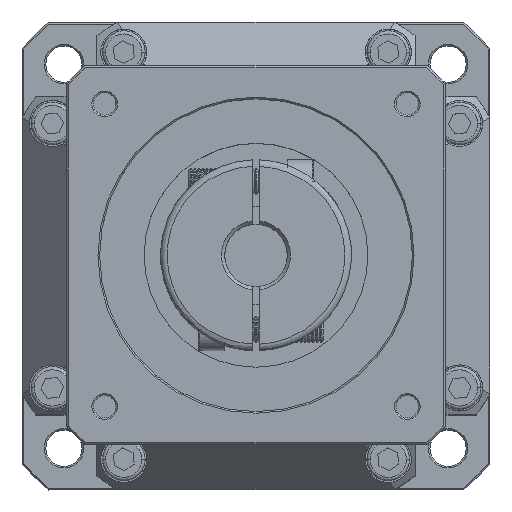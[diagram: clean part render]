
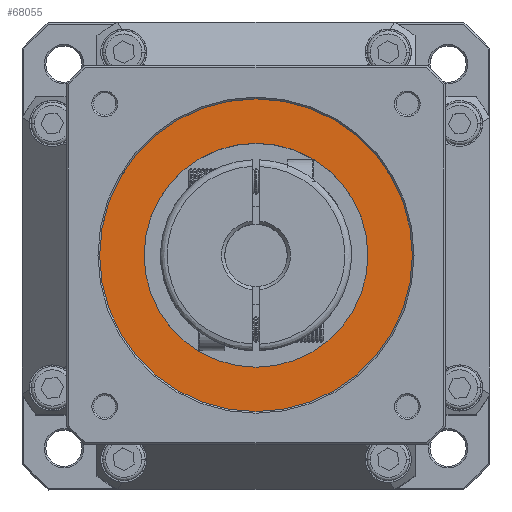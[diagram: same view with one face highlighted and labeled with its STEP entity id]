
A CAD part, top view. The second image highlights one B-rep face of the part: STEP entity #68055.
In plain terms, the highlighted planar face has unit normal (0, 0, -1).
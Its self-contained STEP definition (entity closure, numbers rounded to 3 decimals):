
#110 = VERTEX_POINT ( 'NONE', #34617 ) ;
#2106 = CARTESIAN_POINT ( 'NONE',  ( -47.5, 0., 173. ) ) ;
#4961 = DIRECTION ( 'NONE',  ( 0., 0., 1. ) ) ;
#6616 = ORIENTED_EDGE ( 'NONE', *, *, #79056, .T. ) ;
#8003 = EDGE_CURVE ( 'NONE', #29252, #22478, #40082, .T. ) ;
#10644 = EDGE_CURVE ( 'NONE', #110, #84976, #45941, .T. ) ;
#13610 = FACE_OUTER_BOUND ( 'NONE', #73507, .T. ) ;
#14797 = DIRECTION ( 'NONE',  ( 0., 0., -1. ) ) ;
#14983 = CARTESIAN_POINT ( 'NONE',  ( 0., 0., 173. ) ) ;
#22478 = VERTEX_POINT ( 'NONE', #95795 ) ;
#23007 = DIRECTION ( 'NONE',  ( -1., 0., 0. ) ) ;
#26770 = ORIENTED_EDGE ( 'NONE', *, *, #8003, .T. ) ;
#27464 = DIRECTION ( 'NONE',  ( 0., 0., 1. ) ) ;
#29252 = VERTEX_POINT ( 'NONE', #39047 ) ;
#29259 = ORIENTED_EDGE ( 'NONE', *, *, #81651, .T. ) ;
#33095 = CARTESIAN_POINT ( 'NONE',  ( 0., 0., 173. ) ) ;
#34107 = EDGE_LOOP ( 'NONE', ( #26770, #6616 ) ) ;
#34617 = CARTESIAN_POINT ( 'NONE',  ( 47.5, 0., 173. ) ) ;
#39047 = CARTESIAN_POINT ( 'NONE',  ( -34., 0., 173. ) ) ;
#40082 = CIRCLE ( 'NONE', #51315, 34. ) ;
#41067 = DIRECTION ( 'NONE',  ( 1., 0., 0. ) ) ;
#45941 = CIRCLE ( 'NONE', #94282, 47.5 ) ;
#46505 = CIRCLE ( 'NONE', #77481, 34. ) ;
#51315 = AXIS2_PLACEMENT_3D ( 'NONE', #75303, #27464, #83312 ) ;
#52831 = CARTESIAN_POINT ( 'NONE',  ( -48.07, -48.07, 173. ) ) ;
#56073 = FACE_BOUND ( 'NONE', #34107, .T. ) ;
#60824 = DIRECTION ( 'NONE',  ( 1., 0., 0. ) ) ;
#62557 = CARTESIAN_POINT ( 'NONE',  ( 0., 0., 173. ) ) ;
#66931 = AXIS2_PLACEMENT_3D ( 'NONE', #33095, #88918, #41067 ) ;
#68055 = ADVANCED_FACE ( 'NONE', ( #56073, #13610 ), #100292, .F. ) ;
#70636 = DIRECTION ( 'NONE',  ( 1., 0., 0. ) ) ;
#70821 = DIRECTION ( 'NONE',  ( 0., 0., 1. ) ) ;
#72124 = AXIS2_PLACEMENT_3D ( 'NONE', #52831, #4961, #60824 ) ;
#73507 = EDGE_LOOP ( 'NONE', ( #78672, #29259 ) ) ;
#75303 = CARTESIAN_POINT ( 'NONE',  ( 0., 0., 173. ) ) ;
#77481 = AXIS2_PLACEMENT_3D ( 'NONE', #14983, #70821, #23007 ) ;
#78672 = ORIENTED_EDGE ( 'NONE', *, *, #10644, .T. ) ;
#79056 = EDGE_CURVE ( 'NONE', #22478, #29252, #46505, .T. ) ;
#79679 = CIRCLE ( 'NONE', #66931, 47.5 ) ;
#81651 = EDGE_CURVE ( 'NONE', #84976, #110, #79679, .T. ) ;
#83312 = DIRECTION ( 'NONE',  ( -1., 0., 0. ) ) ;
#84976 = VERTEX_POINT ( 'NONE', #2106 ) ;
#88918 = DIRECTION ( 'NONE',  ( 0., 0., -1. ) ) ;
#94282 = AXIS2_PLACEMENT_3D ( 'NONE', #62557, #14797, #70636 ) ;
#95795 = CARTESIAN_POINT ( 'NONE',  ( 34., 0., 173. ) ) ;
#100292 = PLANE ( 'NONE',  #72124 ) ;
